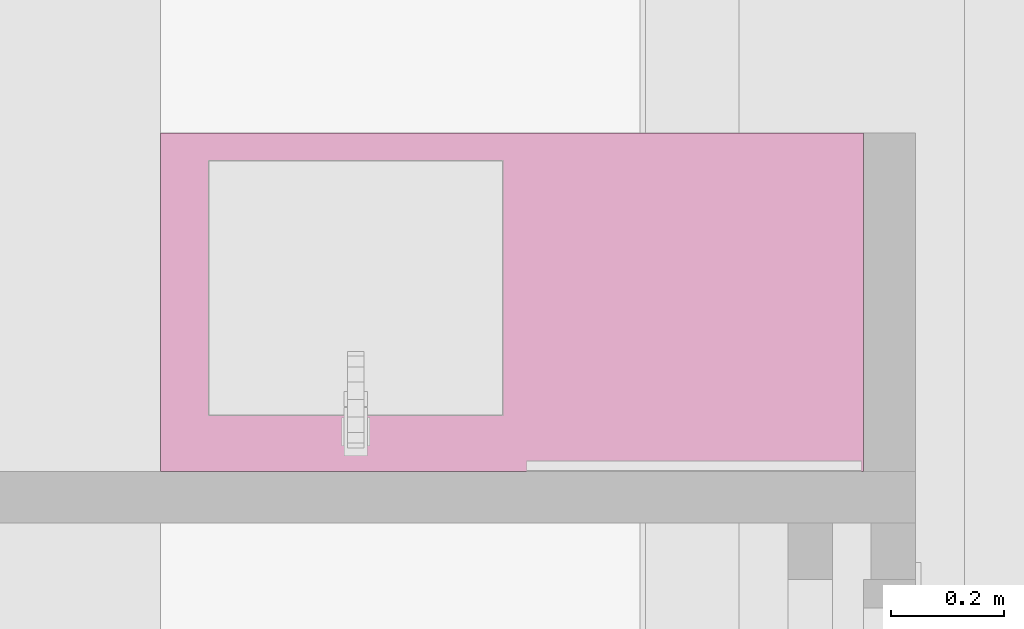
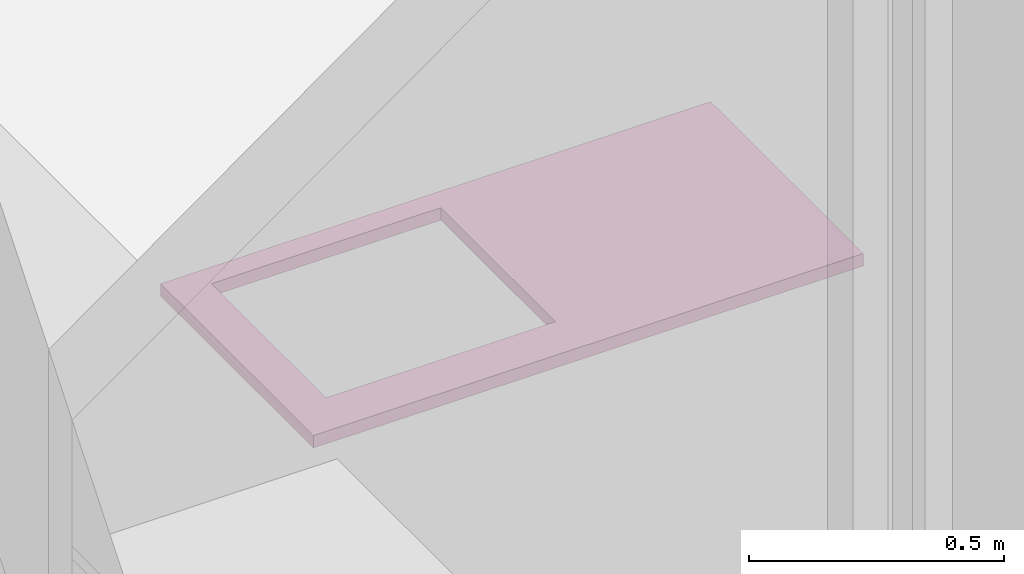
# One storey, part 89 of 125: 1 furnishing.
"""IFC2X3 building model written with IfcOpenShell, lengths in millimetres."""

from ifc_helpers import new_model, entity, si_unit, converted_unit, direction, frame, origin, place, context, subcontext, project, spatial, polyline, outline, extrude, source, transform, mapped, material, type_object, type_shapes, element, save


model = new_model("IFC2X3")

# Units and contexts
model_context = context("Model", 3, precision=0.01, world=origin(), true_north=direction((6.123233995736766e-17, 1.0)))
plan_context = context("Plan", 3, precision=0.01, world=origin(), true_north=direction((6.123233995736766e-17, 1.0)))
body_context = subcontext(model_context, "Body", "Model", "MODEL_VIEW")
ifc_project = project(units=[si_unit("LENGTHUNIT", "METRE", prefix="MILLI"), converted_unit("PLANEANGLEUNIT", "DEGREE", entity("IfcPlaneAngleMeasure", 0.017453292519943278), si_unit("PLANEANGLEUNIT", "RADIAN"), dimensions=[0, 0, 0, 0, 0, 0, 0]), si_unit("AREAUNIT", "SQUARE_METRE")], contexts=[model_context, plan_context])

# Site, building, storey, space
site_placement = place(None, origin())
site = spatial("IfcSite", under=ifc_project, at=site_placement, Name="Default", CompositionType="ELEMENT")
building_placement = place(site_placement, origin())
building = spatial("IfcBuilding", under=site, at=building_placement, CompositionType="ELEMENT")
storey_placement = place(building_placement, frame((0.0, 0.0, 3125.0)))
storey = spatial("IfcBuildingStorey", under=building, at=storey_placement, Name="2K", CompositionType="ELEMENT", Elevation=3125.0)
space_placement = place(storey_placement, origin())
space = spatial("IfcSpace", under=storey, at=space_placement, Name="2-3.2", CompositionType="ELEMENT", InteriorOrExteriorSpace="INTERNAL")

# Furnishing
ifc_material = material(Name="<Unnamed>")
furniture_type = type_object("IfcFurnitureType", Name="HR_Casework_Work-surface_Generic_Rectangular_v1:Default", AssemblyPlace="NOTDEFINED", material=ifc_material)
shared_shape = source(origin(), body_context, "Body", "SweptSolid", [
    extrude(outline(polyline([(-623.0, -300.0), (623.0, -300.0), (623.0, 300.0), (-623.0, 300.0), (-623.0, -300.0)]), holes=[polyline([(17.0, -250.0), (17.0, 200.0), (537.0, 200.0), (537.0, -250.0), (17.0, -250.0)])]), frame((11373.0, 12240.0, 870.0), z_axis=(0.0, 0.0, 1.0), x_axis=(-1.0, 0.0, 0.0)), (0.0, 0.0, 1.0), 29.999999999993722),
])
type_shapes(furniture_type, [shared_shape])
furnishing_placement = place(space_placement, origin())
element("IfcFurnishingElement", 1, at=furnishing_placement, inside=space, type_object=furniture_type, material=ifc_material, Name="HR_Casework_Work-surface_Generic_Rectangular_v1:Default", ObjectType="HR_Casework_Work-surface_Generic_Rectangular_v1:Default", context=body_context, shape_type="MappedRepresentation", body=[
    mapped(shared_shape, transform((0.0, 0.0, 0.0), scale=1.0)),
])

save(model, "model.ifc")
